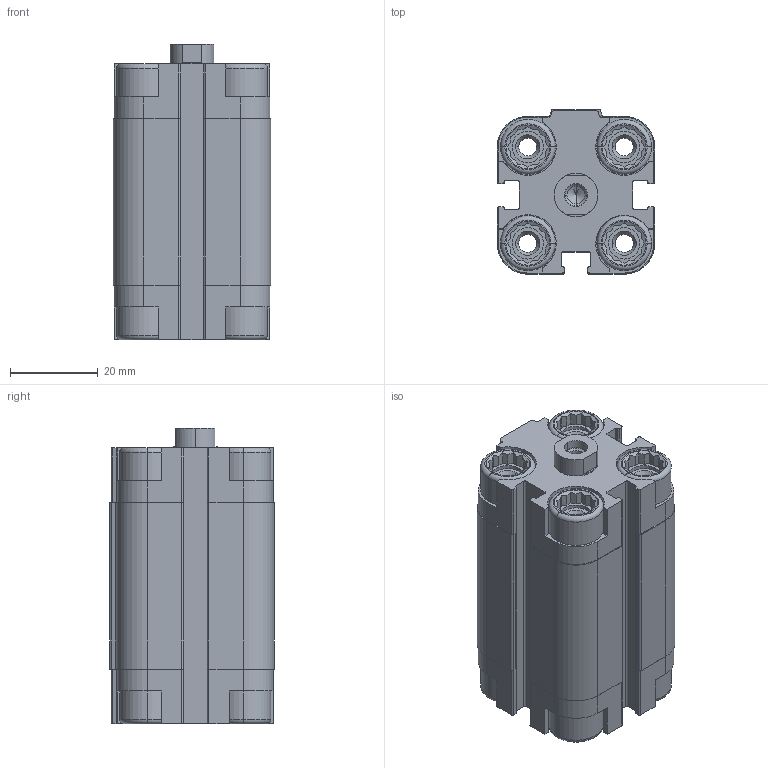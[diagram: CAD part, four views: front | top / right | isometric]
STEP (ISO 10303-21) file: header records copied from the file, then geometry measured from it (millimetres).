
FILE_DESCRIPTION (( 'STEP AP203' ), '1' );
FILE_NAME ('CDVU20-25F.STEP', '2020-03-30T14:55:02', ( '' ), ( '' ), 'SwSTEP 2.0', 'SolidWorks 2019', '' );
FILE_SCHEMA (( 'CONFIG_CONTROL_DESIGN' ));
Length unit declared in the file: millimetre
Products named in the file (1): CDVU20-25F
Bounding box: 36 x 37.5 x 67.5 mm (x, y, z)
Volume: 57462 mm3; surface area: 26985.3 mm2
Topology: 2 solids, 2 shells, 593 faces, 1564 edges, 1011 vertices
Faces by surface type: plane 353, cylinder 178, cone 46, torus 16
Entity records: 18483 total; most frequent: CARTESIAN_POINT 3739, ORIENTED_EDGE 3116, DIRECTION 2986, EDGE_CURVE 1558, AXIS2_PLACEMENT_3D 1026, VERTEX_POINT 1011, LINE 934, VECTOR 934
